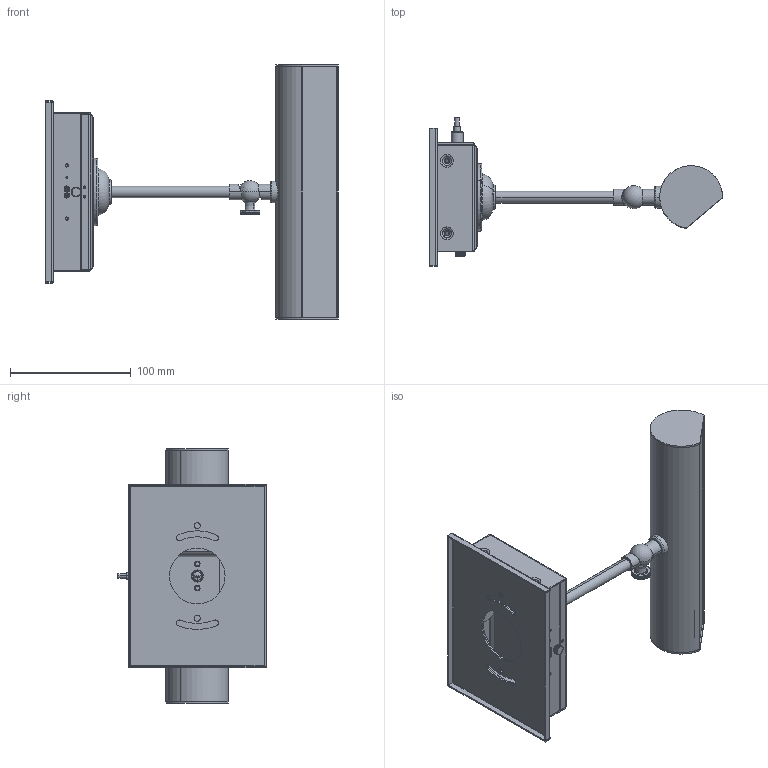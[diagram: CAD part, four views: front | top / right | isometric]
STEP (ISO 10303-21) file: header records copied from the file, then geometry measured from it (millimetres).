
FILE_DESCRIPTION((''),'2;1');
FILE_NAME('PIC18B-E0_ASM','2024-12-18T',('Hugo.Qiu'),(''),'PRO/ENGINEER BY PARAMETRIC TECHNOLOGY CORPORATION, 2009360','PRO/ENGINEER BY PARAMETRIC TECHNOLOGY CORPORATION, 2009360','');
FILE_SCHEMA(('AUTOMOTIVE_DESIGN_CC2 { 1 2 10303 214 -1 1 5 2 }'));
Length unit declared in the file: millimetre
Products named in the file (30): PIC118B-01; PIC124B-02; PIC118B-E1_ASM; PIC118B-03; PIC124B-04; PIC118B-E2_ASM; DIANCHI-2; XUANNIUKAIGUAN; PIC2-12; PIC118B-06; PIC124B-08; LIDIANCI; PIC118B-Z5_ASM; PIC18A-02; PIC18A-07; PIC18A-03; PIC18A-04; 7TDD120603BK; PIC18A-06; PIC18A-E3_ASM; PIC18A-12; PIC18A-08; PIC18A-09; PIC18A-E1_ASM; 8IN-3000K; 7MPF081501; 7MPM0904C1; PIC18A-10; WS21718-08; PIC18B-E0_ASM
Assembly tree (31 placements, depth 4):
  PIC18B-E0_ASM
    PIC118B-Z5_ASM
      PIC118B-E1_ASM
        PIC118B-01
        PIC124B-02
      PIC118B-E2_ASM
        PIC118B-03
        PIC124B-04  x2
      DIANCHI-2
      XUANNIUKAIGUAN
      PIC2-12
      PIC118B-06
      PIC124B-08
      LIDIANCI
    PIC18A-02
    PIC18A-07
    PIC18A-E3_ASM
      PIC18A-03
      PIC18A-04
      7TDD120603BK
      PIC18A-06
    PIC18A-12
    PIC18A-E1_ASM
      PIC18A-08
      PIC18A-09  x2
    8IN-3000K
    7MPF081501
    7MPM0904C1
    PIC18A-10
    WS21718-08
Bounding box: 242.79 x 122.8 x 211 mm (x, y, z)
Volume: 209302.2 mm3; surface area: 237195.2 mm2
Topology: 26 solids, 35 shells, 1251 faces, 3186 edges, 2039 vertices
Faces by surface type: plane 683, cylinder 435, cone 62, torus 52, bspline 15, sphere 4
Entity records: 45095 total; most frequent: CARTESIAN_POINT 8372, DIRECTION 6531, ORIENTED_EDGE 6240, EDGE_CURVE 3136, AXIS2_PLACEMENT_3D 2310, VERTEX_POINT 2014, VECTOR 1911, LINE 1911
